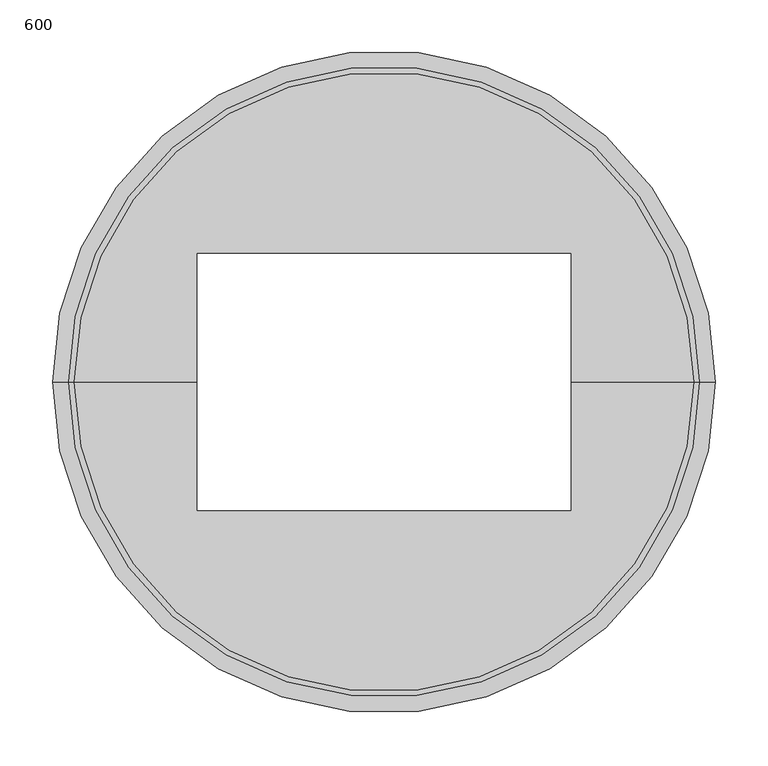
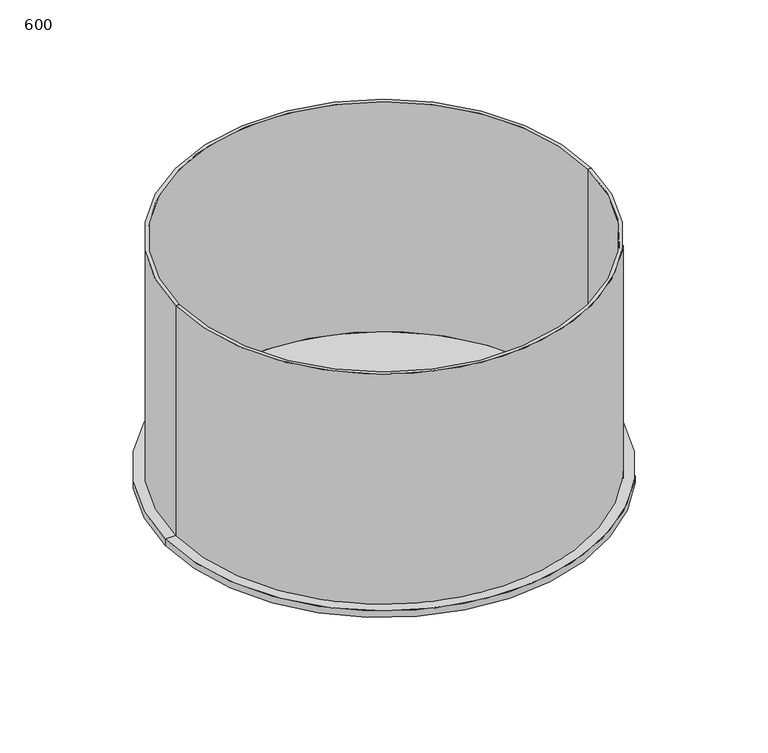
"""IFC4 building model written with IfcOpenShell, lengths in millimetres: unitary equipment geometry, Z_ME_UN_Q-Bic_Plus_Kit_Shaft_Connector_Wavin_(nested) : 600."""

import ifcopenshell
import ifcopenshell.guid

model = None  # the IFC model being written
_history = None  # IfcOwnerHistory: only IFC2X3 demands one
_inside = {}  # id of a spatial element -> (the spatial element, [elements in it])
_under = {}  # id of a project, library or spatial element -> (it, [spatial elements below it])
_declared = {}  # id of a project -> (the project, [libraries it declares])
_typed = {}  # id of a type object -> (the type object, [elements of that type])
_made_of = {}  # id of a material, layer set ... -> (it, [elements and type objects made of it])


def new_model(schema):
    """Start an empty IFC model of exactly this schema.

    Asked for "IFC4X3", IfcOpenShell would pick the latest addendum, in which some entities
    have other attributes; the version numbers below select the first issue.
    IFC2X3 requires an IfcOwnerHistory on every rooted entity: one is made here for all.
    """
    global model, _history
    if schema == "IFC4X3":
        model = ifcopenshell.file(schema_version=(4, 3, 0, 0))
    else:
        model = ifcopenshell.file(schema=schema)
    _inside.clear()
    _under.clear()
    _declared.clear()
    _typed.clear()
    _made_of.clear()
    _history = None
    if model.schema == "IFC2X3":
        org = make("IfcOrganization", Name="unknown")
        user = make(
            "IfcPersonAndOrganization",
            ThePerson=make("IfcPerson", FamilyName="unknown"),
            TheOrganization=org,
        )
        app = make(
            "IfcApplication",
            ApplicationDeveloper=org,
            Version="unknown",
            ApplicationFullName="unknown",
            ApplicationIdentifier="unknown",
        )
        _history = make(
            "IfcOwnerHistory",
            OwningUser=user,
            OwningApplication=app,
            ChangeAction="ADDED",
            CreationDate=0,
        )
    return model


def make(cls, **values):
    """One entity of the class cls with the attributes given. An attribute that is None is left unset."""
    return model.create_entity(
        cls, **{name: value for name, value in values.items() if value is not None}
    )


def rooted(cls, **values):
    """An entity with a GlobalId (a new one), such as an element, a storey or a relation."""
    return make(cls, GlobalId=ifcopenshell.guid.new(), OwnerHistory=_history, **values)


def si_unit(unit_type, name, prefix=None):
    """IfcSIUnit, for example si_unit("LENGTHUNIT", "METRE", prefix="MILLI")."""
    return make("IfcSIUnit", UnitType=unit_type, Prefix=prefix, Name=name)


def assignment(units):
    """IfcUnitAssignment: the units of a project."""
    return None if units is None else make("IfcUnitAssignment", Units=units)


def point(xyz):
    """IfcCartesianPoint."""
    return None if xyz is None else make("IfcCartesianPoint", Coordinates=xyz)


def direction(xyz):
    """IfcDirection."""
    return None if xyz is None else make("IfcDirection", DirectionRatios=xyz)


def frame(location, z_axis=None, x_axis=None):
    """IfcAxis2Placement3D, a coordinate frame: its origin and axes. An axis left out is left unset."""
    return make(
        "IfcAxis2Placement3D",
        Location=point(location),
        Axis=direction(z_axis),
        RefDirection=direction(x_axis),
    )


def origin():
    """The frame at (0, 0, 0) with its axes left unset."""
    return frame((0.0, 0.0, 0.0))


def origin_with_axes():
    """The frame at (0, 0, 0) with the z axis (0, 0, 1) and the x axis (1, 0, 0) written out."""
    return frame((0.0, 0.0, 0.0), z_axis=(0.0, 0.0, 1.0), x_axis=(1.0, 0.0, 0.0))


def place(relative_to, where):
    """IfcLocalPlacement: puts the frame where relative to a parent placement (None: the world)."""
    return make(
        "IfcLocalPlacement", PlacementRelTo=relative_to, RelativePlacement=where
    )


def context(
    kind, dimensions, precision=None, world=None, true_north=None, identifier=None
):
    """IfcGeometricRepresentationContext, for example the 3D "Model" context."""
    return make(
        "IfcGeometricRepresentationContext",
        ContextIdentifier=identifier,
        ContextType=kind,
        CoordinateSpaceDimension=dimensions,
        Precision=precision,
        WorldCoordinateSystem=world,
        TrueNorth=true_north,
    )


def project(units=None, contexts=None):
    """IfcProject with its units and contexts."""
    return rooted(
        "IfcProject",
        Name="project",
        RepresentationContexts=contexts,
        UnitsInContext=assignment(units),
    )


def spatial(cls, under=None, at=None, **own):
    """A site, building, storey or space (cls), placed at a placement, below another one or the project."""
    s = rooted(cls, ObjectPlacement=at, **own)
    if under is not None:
        _under.setdefault(under.id(), (under, []))[1].append(s)
    return s


def polyline(points):
    """IfcPolyline through the points."""
    return make("IfcPolyline", Points=[point(p) for p in points])


def circle_curve(where, radius):
    """IfcCircle in the frame where."""
    return make("IfcCircle", Position=where, Radius=radius)


def outline(outer, holes=None, kind="AREA"):
    """IfcArbitraryClosedProfileDef: a profile drawn as a closed curve; with holes, ...WithVoids."""
    if holes is None:
        return make("IfcArbitraryClosedProfileDef", ProfileType=kind, OuterCurve=outer)
    return make(
        "IfcArbitraryProfileDefWithVoids",
        ProfileType=kind,
        OuterCurve=outer,
        InnerCurves=holes,
    )


def extrude(swept, where, along, depth):
    """IfcExtrudedAreaSolid: the profile swept, set in the frame where, extruded along a direction by depth."""
    return make(
        "IfcExtrudedAreaSolid",
        SweptArea=swept,
        Position=where,
        ExtrudedDirection=direction(along),
        Depth=depth,
    )


def shape(context_of_items, identifier, shape_type, items):
    """IfcShapeRepresentation: the items that make up one representation, for example the "Body"."""
    return make(
        "IfcShapeRepresentation",
        ContextOfItems=context_of_items,
        RepresentationIdentifier=identifier,
        RepresentationType=shape_type,
        Items=items,
    )


def source(mapping_origin, context_of_items, identifier, shape_type, items):
    """IfcRepresentationMap: a shape defined once, which mapped items show again and again."""
    return make(
        "IfcRepresentationMap",
        MappingOrigin=mapping_origin,
        MappedRepresentation=shape(context_of_items, identifier, shape_type, items),
    )


def transform(
    local_origin,
    x_axis=None,
    y_axis=None,
    z_axis=None,
    scale=None,
    scale2=None,
    scale3=None,
    uniform=True,
):
    """IfcCartesianTransformationOperator3D, or its non-uniform kind. x_axis, y_axis, z_axis: its Axis1, 2, 3."""
    if uniform:
        return make(
            "IfcCartesianTransformationOperator3D",
            Axis1=direction(x_axis),
            Axis2=direction(y_axis),
            LocalOrigin=point(local_origin),
            Scale=scale,
            Axis3=direction(z_axis),
        )
    return make(
        "IfcCartesianTransformationOperator3DnonUniform",
        Axis1=direction(x_axis),
        Axis2=direction(y_axis),
        LocalOrigin=point(local_origin),
        Scale=scale,
        Axis3=direction(z_axis),
        Scale2=scale2,
        Scale3=scale3,
    )


def mapped(mapping_source, mapping_target):
    """IfcMappedItem: shows the shape of a source again, moved by a transform."""
    return make(
        "IfcMappedItem", MappingSource=mapping_source, MappingTarget=mapping_target
    )


def made_of(thing, what):
    """Note that an element or type object is made of a material, layer set ...; save() writes the relation."""
    if what is not None:
        _made_of.setdefault(what.id(), (what, []))[1].append(thing)
    return thing


def element(
    cls,
    number,
    at=None,
    inside=None,
    cuts=None,
    type_object=None,
    material=None,
    context=None,
    identifier="Body",
    shape_type=None,
    held_by="IfcProductDefinitionShape",
    body=None,
    shapes=None,
    **own,
):
    """One element of the class cls, such as IfcWall. Its Tag is "e" and its number.

    at: its placement. inside: the storey or other place that contains it. cuts: it is an
    opening in that element (IfcRelVoidsElement). A single representation is given by context,
    identifier, shape_type and body (its items); several are given by shapes. held_by: the class
    of the entity that holds the representations. save() writes the other relations.
    """
    e = rooted(cls, Tag="e%d" % number, ObjectPlacement=at, **own)
    if body is not None:
        shapes = [shape(context, identifier, shape_type, body)]
    if shapes is not None:
        e.Representation = make(held_by, Representations=shapes)
    if inside is not None:
        _inside.setdefault(inside.id(), (inside, []))[1].append(e)
    if cuts is not None:
        rooted(
            "IfcRelVoidsElement", RelatingBuildingElement=cuts, RelatedOpeningElement=e
        )
    if type_object is not None:
        _typed.setdefault(type_object.id(), (type_object, []))[1].append(e)
    return made_of(e, material)


def aggregate(whole, parts):
    """IfcRelAggregates: a whole, such as a stair, and the parts it consists of."""
    return rooted("IfcRelAggregates", RelatingObject=whole, RelatedObjects=parts)


def save(model, path):
    """Write the relations noted so far, then the file.

    IfcRelAggregates (storeys below a building ...), IfcRelContainedInSpatialStructure (elements
    in a storey), IfcRelDefinesByType, IfcRelAssociatesMaterial and IfcRelDeclares: one each for
    every whole, place, type object, material and project.
    """
    for whole, parts in _under.values():
        aggregate(whole, parts)
    for where, things in _inside.values():
        rooted(
            "IfcRelContainedInSpatialStructure",
            RelatedElements=things,
            RelatingStructure=where,
        )
    for kind, things in _typed.values():
        rooted("IfcRelDefinesByType", RelatedObjects=things, RelatingType=kind)
    for what, things in _made_of.values():
        rooted("IfcRelAssociatesMaterial", RelatedObjects=things, RelatingMaterial=what)
    for by, libraries in _declared.values():
        rooted("IfcRelDeclares", RelatingContext=by, RelatedDefinitions=libraries)
    model.write(path)


def plane_surface(at):
    """IfcPlane: the flat surface through the origin of the frame at, square to its z axis."""
    return make("IfcPlane", Position=at)


def cylinder_surface(at, radius):
    """IfcCylindricalSurface: all points at the distance radius from the z axis of the frame at."""
    return make("IfcCylindricalSurface", Position=at, Radius=radius)


def revolved_surface(curve, axis_point, axis_direction):
    """IfcSurfaceOfRevolution: the curve turned about the line through axis_point along axis_direction."""
    return make(
        "IfcSurfaceOfRevolution",
        SweptCurve=make("IfcArbitraryOpenProfileDef", ProfileType="CURVE", Curve=curve),
        AxisPosition=make("IfcAxis1Placement", Location=point(axis_point), Axis=direction(axis_direction)),
    )


def advanced_brep(points, edges, surfaces, faces):
    """IfcAdvancedBrep: a solid bounded by faces that lie on surfaces and meet in shared edges.

    An edge is (start, end): straight between two places in points (the first is 0);
    or (start, end, curve); or (start, end, curve, False) where it runs against its curve.
    A face is (place in surfaces, loops), or (place, loops, False) where it looks against
    its surface's normal. A loop lists edges by number (the first is 1), with a minus sign
    where the edge is run from its end to its start. The first loop is the outer one.
    """
    corners = [point(p) for p in points]
    vertices = [make("IfcVertexPoint", VertexGeometry=c) for c in corners]
    made = []
    for start, end, *more in edges:
        made.append(
            make(
                "IfcEdgeCurve",
                EdgeStart=vertices[start],
                EdgeEnd=vertices[end],
                EdgeGeometry=more[0] if more else make("IfcPolyline", Points=[corners[start], corners[end]]),
                SameSense=more[1] if len(more) > 1 else True,
            )
        )
    hull = []
    for where, loops, *sense in faces:
        bounds = []
        for j, loop in enumerate(loops):
            ring = [make("IfcOrientedEdge", EdgeElement=made[abs(k) - 1], Orientation=k > 0) for k in loop]
            bounds.append(
                make(
                    "IfcFaceOuterBound" if j == 0 else "IfcFaceBound",
                    Bound=make("IfcEdgeLoop", EdgeList=ring),
                    Orientation=True,
                )
            )
        hull.append(make("IfcAdvancedFace", Bounds=bounds, FaceSurface=surfaces[where], SameSense=sense[0] if sense else True))
    return make("IfcAdvancedBrep", Outer=make("IfcClosedShell", CfsFaces=hull))


def unitary_equipment_600_9c861f79(model_context):
    return source(origin(), model_context, "Body", "SolidModel", [
        advanced_brep(
        [(-299.0, 0.0, 360.0), (299.0, 0.0, 360.0), (299.0, 0.0, 0.0), (-299.0, 0.0, 0.0), (-294.0, 0.0, 360.0), (294.0, 0.0, 360.0), (177.5, 122.5, 0.0), (177.5, 122.5, 10.0), (-177.5, 122.5, 10.0), (-177.5, 122.5, 0.0), (-177.5, 0.0, 10.0), (-177.5, -122.5, 10.0), (-177.5, -122.5, 0.0), (-177.5, 0.0, 0.0), (177.5, -122.5, 10.0), (177.5, -122.5, 0.0), (177.5, 0.0, 0.0), (177.5, 0.0, 10.0), (-294.0, 0.0, 10.0), (294.0, 0.0, 10.0)],
        [
            (0, 1, circle_curve(frame((0.0, 0.0, 360.0), z_axis=(0.0, 0.0, -1.0), x_axis=(1.0, 0.0, 0.0)), 299.0)),
            (1, 2),
            (2, 3, circle_curve(origin_with_axes(), 299.0)),
            (3, 0),
            (1, 0, circle_curve(frame((0.0, 0.0, 360.0), z_axis=(0.0, 0.0, -1.0), x_axis=(1.0, 0.0, 0.0)), 299.0)),
            (3, 2, circle_curve(origin_with_axes(), 299.0)),
            (0, 4),
            (4, 5, circle_curve(frame((0.0, 0.0, 360.0), z_axis=(0.0, 0.0, -1.0), x_axis=(1.0, 0.0, 0.0)), 294.0)),
            (5, 1),
            (5, 4, circle_curve(frame((0.0, 0.0, 360.0), z_axis=(0.0, 0.0, -1.0), x_axis=(1.0, 0.0, 0.0)), 294.0)),
            (6, 7),
            (7, 8),
            (8, 9),
            (9, 6),
            (8, 10),
            (10, 11),
            (11, 12),
            (12, 13),
            (13, 9),
            (11, 14),
            (14, 15),
            (15, 12),
            (6, 16),
            (16, 15),
            (14, 17),
            (17, 7),
            (4, 18),
            (18, 19, circle_curve(frame((0.0, 0.0, 10.0), z_axis=(0.0, 0.0, -1.0), x_axis=(1.0, 0.0, 0.0)), 294.0)),
            (19, 5),
            (19, 18, circle_curve(frame((0.0, 0.0, 10.0), z_axis=(0.0, 0.0, -1.0), x_axis=(1.0, 0.0, 0.0)), 294.0)),
            (18, 10),
            (17, 19),
            (2, 16),
            (13, 3),
        ],
        [
            cylinder_surface(frame((0.0, 0.0, 360.0), z_axis=(0.0, 0.0, 1.0), x_axis=(1.0, 0.0, 0.0)), 299.0),
            plane_surface(frame((0.0, 0.0, 360.0), z_axis=(0.0, 0.0, 1.0), x_axis=(1.0, 0.0, 0.0))),
            plane_surface(frame((177.5, 122.5, 10.0), z_axis=(0.0, -1.0, 0.0), x_axis=(0.0, 0.0, -1.0))),
            plane_surface(frame((-177.5, 122.5, 10.0), z_axis=(1.0, 0.0, 0.0), x_axis=(0.0, 0.0, -1.0))),
            plane_surface(frame((-177.5, -122.5, 10.0), z_axis=(0.0, 1.0, 0.0), x_axis=(0.0, 0.0, -1.0))),
            plane_surface(frame((177.5, -122.5, 10.0), z_axis=(-1.0, 0.0, 0.0), x_axis=(0.0, 0.0, -1.0))),
            revolved_surface(polyline([(294.0, 0.0, 360.0), (294.0, 0.0, 10.0)]), (0.0, 0.0, 360.0), (0.0, 0.0, 1.0)),
            plane_surface(frame((0.0, 0.0, 10.0), z_axis=(0.0, 0.0, 1.0), x_axis=(1.0, 0.0, 0.0))),
            plane_surface(frame((0.0, 0.0, 0.0), z_axis=(0.0, 0.0, -1.0), x_axis=(1.0, 0.0, 0.0))),
        ],
        [
            (0, [[1, 2, 3, 4]]),
            (0, [[-2, 5, -4, 6]]),
            (1, [[-1, 7, 8, 9]]),
            (1, [[-5, -9, 10, -7]]),
            (2, [[11, 12, 13, 14]]),
            (3, [[-13, 15, 16, 17, 18, 19]]),
            (4, [[-17, 20, 21, 22]]),
            (5, [[-11, 23, 24, -21, 25, 26]]),
            (6, [[-8, 27, 28, 29]]),
            (6, [[-10, -29, 30, -27]]),
            (7, [[-28, 31, -15, -12, -26, 32]]),
            (7, [[-30, -32, -25, -20, -16, -31]]),
            (8, [[-3, 33, -23, -14, -19, 34]]),
            (8, [[-6, -34, -18, -22, -24, -33]]),
        ],
    ),
        extrude(outline(polyline([(182.5, 127.5), (182.5, -127.5), (-182.5, -127.5), (-182.5, 127.5), (182.5, 127.5)]), holes=[polyline([(177.5, 122.5), (-177.5, 122.5), (-177.5, -122.5), (177.5, -122.5), (177.5, 122.5)])]), frame((0.0, 0.0, -64.0), z_axis=(0.0, 0.0, 1.0), x_axis=(1.0, 0.0, 0.0)), (0.0, 0.0, 1.0), 64.0),
        advanced_brep(
        [(-299.0, 0.0, 0.0), (299.0, 0.0, 0.0), (299.0, 0.0, 10.0), (-299.0, 0.0, 10.0), (-314.0, 0.0, 0.0), (314.0, 0.0, 0.0), (-314.0, 0.0, 10.0), (314.0, 0.0, 10.0)],
        [
            (0, 1, circle_curve(frame((0.0, 0.0, 0.0), z_axis=(0.0, 0.0, -1.0), x_axis=(1.0, 0.0, 0.0)), 299.0)),
            (1, 2),
            (2, 3, circle_curve(frame((0.0, 0.0, 10.0), z_axis=(0.0, 0.0, 1.0), x_axis=(1.0, 0.0, 0.0)), 299.0)),
            (3, 0),
            (1, 0, circle_curve(frame((0.0, 0.0, 0.0), z_axis=(0.0, 0.0, -1.0), x_axis=(1.0, 0.0, 0.0)), 299.0)),
            (3, 2, circle_curve(frame((0.0, 0.0, 10.0), z_axis=(0.0, 0.0, 1.0), x_axis=(1.0, 0.0, 0.0)), 299.0)),
            (4, 5, circle_curve(frame((0.0, 0.0, 0.0), z_axis=(0.0, 0.0, -1.0), x_axis=(1.0, 0.0, 0.0)), 314.0)),
            (5, 1),
            (0, 4),
            (5, 4, circle_curve(frame((0.0, 0.0, 0.0), z_axis=(0.0, 0.0, -1.0), x_axis=(1.0, 0.0, 0.0)), 314.0)),
            (6, 7, circle_curve(frame((0.0, 0.0, 10.0), z_axis=(0.0, 0.0, -1.0), x_axis=(1.0, 0.0, 0.0)), 314.0)),
            (7, 5),
            (4, 6),
            (7, 6, circle_curve(frame((0.0, 0.0, 10.0), z_axis=(0.0, 0.0, -1.0), x_axis=(1.0, 0.0, 0.0)), 314.0)),
            (2, 7),
            (6, 3),
        ],
        [
            revolved_surface(polyline([(299.0, 0.0, 10.0), (299.0, 0.0, 0.0)]), (0.0, 0.0, -381.0), (0.0, 0.0, 1.0)),
            plane_surface(frame((0.0, 0.0, 0.0), z_axis=(0.0, 0.0, -1.0), x_axis=(1.0, 0.0, 0.0))),
            cylinder_surface(frame((0.0, 0.0, -381.0), z_axis=(0.0, 0.0, 1.0), x_axis=(1.0, 0.0, 0.0)), 314.0),
            plane_surface(frame((0.0, 0.0, 10.0), z_axis=(0.0, 0.0, 1.0), x_axis=(1.0, 0.0, 0.0))),
        ],
        [
            (0, [[1, 2, 3, 4]]),
            (0, [[5, -4, 6, -2]]),
            (1, [[7, 8, -1, 9]]),
            (1, [[10, -9, -5, -8]]),
            (2, [[11, 12, -7, 13]]),
            (2, [[14, -13, -10, -12]]),
            (3, [[-3, 15, -11, 16]]),
            (3, [[-6, -16, -14, -15]]),
        ],
    ),
    ])


if __name__ == "__main__":
    model = new_model("IFC4")
    model_context = context("Model", 3, world=origin())
    ifc_project = project(units=[si_unit("LENGTHUNIT", "METRE", prefix="MILLI")], contexts=[model_context])
    site = spatial("IfcSite", under=ifc_project)
    building = spatial("IfcBuilding", under=site)
    placement = place(None, origin())
    unitary_equipment_600_shape = unitary_equipment_600_9c861f79(model_context)
    element("IfcUnitaryEquipment", 1, ObjectType="Z_ME_UN_Q-Bic_Plus_Kit_Shaft_Connector_Wavin_(nested) : 600", at=placement, inside=building, context=model_context, shape_type="MappedRepresentation", body=[
        mapped(unitary_equipment_600_shape, transform((0.0, 0.0, 0.0), x_axis=(1.0, 0.0, 0.0), y_axis=(0.0, 1.0, 0.0), z_axis=(0.0, 0.0, 1.0))),
    ])
    save(model, "model.ifc")
